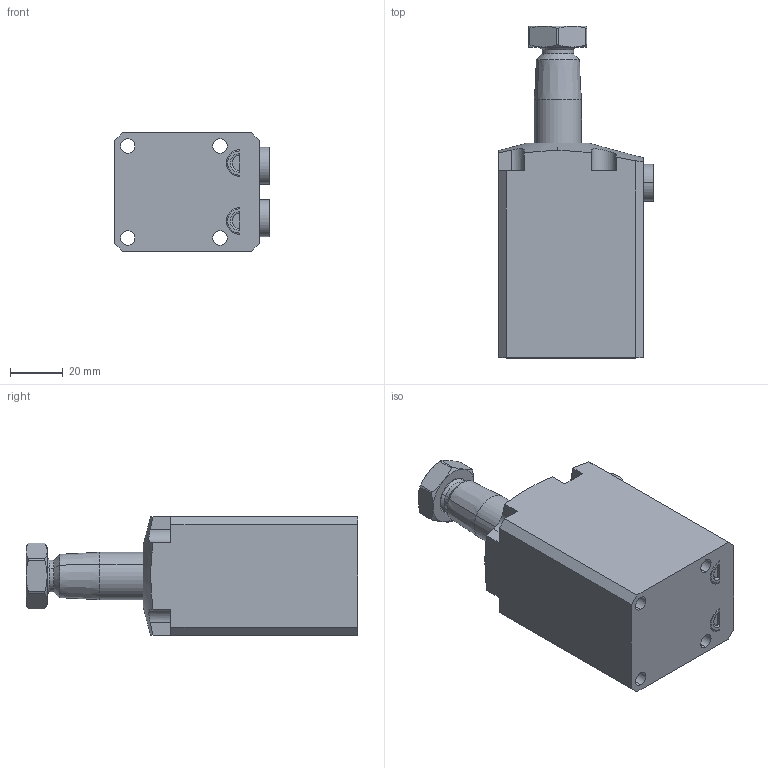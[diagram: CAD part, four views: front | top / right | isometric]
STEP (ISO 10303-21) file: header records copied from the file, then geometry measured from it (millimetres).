
FILE_DESCRIPTION(/* description */ (''),/* implementation_level */ '2;1');
FILE_NAME(/* name */ 'BRC02-RN30.stp',/* time_stamp */ '2025-01-05T09:22:37+08:00',/* author */ (''),/* organization */ (''),/* preprocessor_version */ 'ST-DEVELOPER v16.7',/* originating_system */ 'SIEMENS PLM Software NX 12.0',/* authorisation */ '');
FILE_SCHEMA (('AUTOMOTIVE_DESIGN { 1 0 10303 214 3 1 1 1 }'));
Length unit declared in the file: millimetre
Products named in the file (5): BRC02-RN30-03; BRC02-RN30-04; BRC02-RN30-02; BRC02-RN30-01; BRC02-RN30_stp
Assembly tree (5 placements, depth 2):
  BRC02-RN30_stp
    BRC02-RN30-01
    BRC02-RN30-02
    BRC02-RN30-04  x2
    BRC02-RN30-03
Bounding box: 58.8 x 126 x 45 mm (x, y, z)
Volume: 194571.6 mm3; surface area: 32514 mm2
Topology: 7 solids, 7 shells, 170 faces, 395 edges, 248 vertices
Faces by surface type: plane 72, cylinder 53, cone 34, torus 10, sphere 1
Full cylindrical faces by diameter (mm): 8.5 x2
Entity records: 4576 total; most frequent: CARTESIAN_POINT 965, DIRECTION 746, ORIENTED_EDGE 700, EDGE_CURVE 350, AXIS2_PLACEMENT_3D 293, VERTEX_POINT 222, EDGE_LOOP 174, LINE 160
